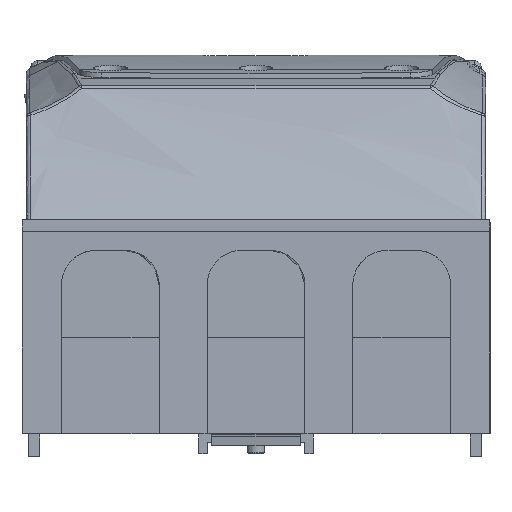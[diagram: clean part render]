
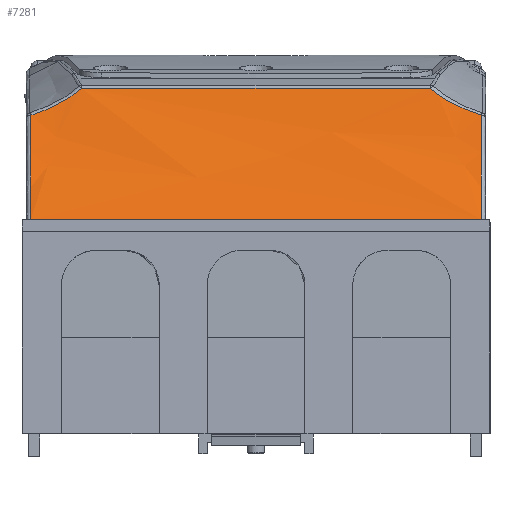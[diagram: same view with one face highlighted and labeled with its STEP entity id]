
A CAD part, left-side view. The second image highlights one B-rep face of the part: STEP entity #7281.
In plain terms, the highlighted face is a extrusion surface.
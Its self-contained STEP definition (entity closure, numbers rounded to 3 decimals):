
#4260=SURFACE_OF_LINEAR_EXTRUSION('',#5270,#30252);
#5270=ELLIPSE('',#32568,35.,12.5);
#7281=ADVANCED_FACE('',(#9656),#4260,.F.);
#9656=FACE_OUTER_BOUND('',#11192,.T.);
#11192=EDGE_LOOP('',(#16172,#16173,#16174,#16175,#16176,#16177));
#12338=B_SPLINE_CURVE_WITH_KNOTS('',3,(#45261,#45262,#45263,#45264,#45265,
#45266),.UNSPECIFIED.,.F.,.F.,(4,2,4),(0.,0.5,1.),.UNSPECIFIED.);
#12699=B_SPLINE_CURVE_WITH_KNOTS('',3,(#55425,#55426,#55427,#55428,#55429,
#55430),.UNSPECIFIED.,.F.,.F.,(4,2,4),(0.,0.5,1.),.UNSPECIFIED.);
#12718=B_SPLINE_CURVE_WITH_KNOTS('',3,(#55901,#55902,#55903,#55904,#55905,
#55906),.UNSPECIFIED.,.F.,.F.,(4,2,4),(0.,0.5,1.),.UNSPECIFIED.);
#12756=B_SPLINE_CURVE_WITH_KNOTS('',3,(#57106,#57107,#57108,#57109,#57110,
#57111),.UNSPECIFIED.,.F.,.F.,(4,2,4),(0.,0.5,1.),.UNSPECIFIED.);
#16172=ORIENTED_EDGE('',*,*,#25865,.T.);
#16173=ORIENTED_EDGE('',*,*,#25810,.T.);
#16174=ORIENTED_EDGE('',*,*,#25805,.T.);
#16175=ORIENTED_EDGE('',*,*,#24867,.T.);
#16176=ORIENTED_EDGE('',*,*,#24613,.F.);
#16177=ORIENTED_EDGE('',*,*,#25972,.T.);
#21898=VERTEX_POINT('',#44408);
#21899=VERTEX_POINT('',#44410);
#22110=VERTEX_POINT('',#45267);
#22719=VERTEX_POINT('',#55417);
#22722=VERTEX_POINT('',#55454);
#22750=VERTEX_POINT('',#55907);
#24613=EDGE_CURVE('',#21898,#21899,#28193,.T.);
#24867=EDGE_CURVE('',#22110,#21899,#12338,.T.);
#25805=EDGE_CURVE('',#22719,#22110,#12699,.T.);
#25810=EDGE_CURVE('',#22722,#22719,#28595,.T.);
#25865=EDGE_CURVE('',#22750,#22722,#12718,.T.);
#25972=EDGE_CURVE('',#21898,#22750,#12756,.T.);
#28193=LINE('',#44409,#29814);
#28595=LINE('',#55457,#30216);
#29814=VECTOR('',#35295,1.);
#30216=VECTOR('',#37095,1.);
#30252=VECTOR('',#37373,1.);
#32568=AXIS2_PLACEMENT_3D('',#57112,#37371,#37372);
#35295=DIRECTION('',(0.,1.,0.));
#37095=DIRECTION('',(0.,1.,0.));
#37371=DIRECTION('',(0.,-1.,0.));
#37372=DIRECTION('',(0.568,0.,0.823));
#37373=DIRECTION('',(0.,-1.,0.));
#44408=CARTESIAN_POINT('',(-175.043,33.,45.002));
#44409=CARTESIAN_POINT('',(-175.043,33.,45.002));
#44410=CARTESIAN_POINT('',(-175.043,135.,45.002));
#45261=CARTESIAN_POINT('',(-159.537,135.,68.653));
#45262=CARTESIAN_POINT('',(-161.463,135.,64.325));
#45263=CARTESIAN_POINT('',(-163.796,135.,60.186));
#45264=CARTESIAN_POINT('',(-168.994,135.,52.289));
#45265=CARTESIAN_POINT('',(-171.874,135.,48.515));
#45266=CARTESIAN_POINT('',(-175.043,135.,45.002));
#45267=CARTESIAN_POINT('',(-159.537,135.,68.653));
#55417=CARTESIAN_POINT('',(-157.184,123.476,74.757));
#55425=CARTESIAN_POINT('',(-157.184,123.476,74.757));
#55426=CARTESIAN_POINT('',(-157.651,125.115,73.302));
#55427=CARTESIAN_POINT('',(-158.088,126.995,72.144));
#55428=CARTESIAN_POINT('',(-158.88,130.869,70.155));
#55429=CARTESIAN_POINT('',(-159.237,132.892,69.327));
#55430=CARTESIAN_POINT('',(-159.537,135.,68.653));
#55454=CARTESIAN_POINT('',(-157.184,44.524,74.757));
#55457=CARTESIAN_POINT('',(-157.184,44.524,74.757));
#55901=CARTESIAN_POINT('',(-159.537,33.,68.653));
#55902=CARTESIAN_POINT('',(-159.237,35.107,69.326));
#55903=CARTESIAN_POINT('',(-158.878,37.144,70.159));
#55904=CARTESIAN_POINT('',(-158.08,41.044,72.166));
#55905=CARTESIAN_POINT('',(-157.649,42.892,73.308));
#55906=CARTESIAN_POINT('',(-157.184,44.524,74.757));
#55907=CARTESIAN_POINT('',(-159.537,33.,68.653));
#57106=CARTESIAN_POINT('',(-175.043,33.,45.002));
#57107=CARTESIAN_POINT('',(-171.879,33.,48.509));
#57108=CARTESIAN_POINT('',(-168.997,33.,52.283));
#57109=CARTESIAN_POINT('',(-163.796,33.,60.186));
#57110=CARTESIAN_POINT('',(-161.463,33.,64.326));
#57111=CARTESIAN_POINT('',(-159.537,33.,68.653));
#57112=CARTESIAN_POINT('',(-177.888,136.,61.55));
